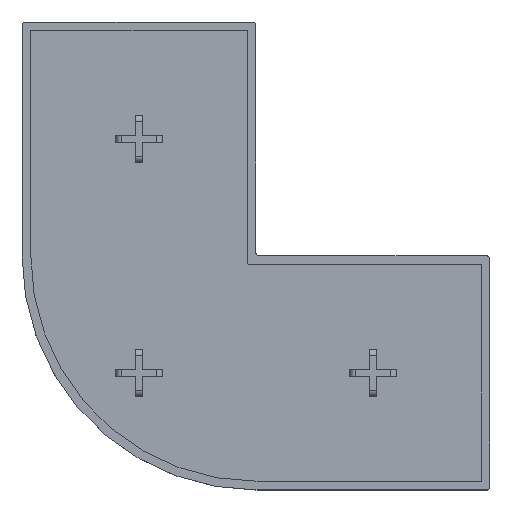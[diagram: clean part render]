
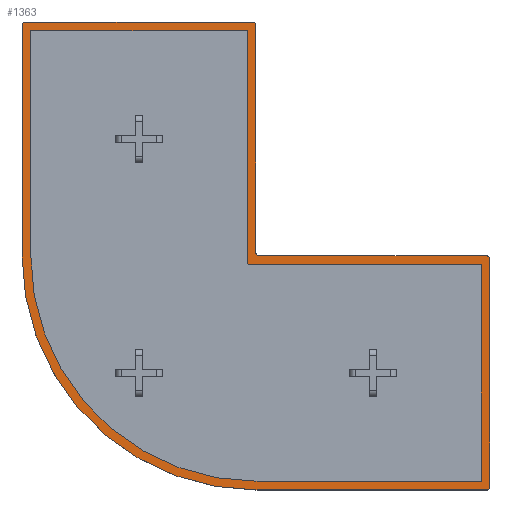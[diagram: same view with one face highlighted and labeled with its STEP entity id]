
A CAD part, top view. The second image highlights one B-rep face of the part: STEP entity #1363.
In plain terms, the highlighted planar face has unit normal (0, 0, 1).
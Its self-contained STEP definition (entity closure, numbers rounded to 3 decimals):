
#15=FACE_BOUND('',#150,.T.);
#20=PLANE('',#1441);
#75=FACE_OUTER_BOUND('',#149,.T.);
#149=EDGE_LOOP('',(#941,#942,#943,#944,#945,#946,#947,#948,#949,#950,#951,
#952));
#150=EDGE_LOOP('',(#953,#954,#955,#956,#957,#958,#959,#960));
#227=LINE('',#1957,#391);
#230=LINE('',#1963,#394);
#231=LINE('',#1967,#395);
#232=LINE('',#1971,#396);
#233=LINE('',#1975,#397);
#234=LINE('',#1979,#398);
#235=LINE('',#1983,#399);
#236=LINE('',#1985,#400);
#237=LINE('',#1987,#401);
#238=LINE('',#1991,#402);
#239=LINE('',#1993,#403);
#240=LINE('',#1995,#404);
#391=VECTOR('',#1563,39.5);
#394=VECTOR('',#1568,39.5);
#395=VECTOR('',#1571,39.);
#396=VECTOR('',#1574,39.);
#397=VECTOR('',#1577,39.);
#398=VECTOR('',#1580,39.);
#399=VECTOR('',#1583,38.5);
#400=VECTOR('',#1584,37.);
#401=VECTOR('',#1585,39.5);
#402=VECTOR('',#1588,39.5);
#403=VECTOR('',#1589,37.);
#404=VECTOR('',#1590,38.5);
#554=CIRCLE('',#1439,40.);
#555=CIRCLE('',#1442,0.5);
#556=CIRCLE('',#1443,0.5);
#557=CIRCLE('',#1444,0.5);
#558=CIRCLE('',#1445,0.5);
#559=CIRCLE('',#1446,0.5);
#560=CIRCLE('',#1447,0.5);
#561=CIRCLE('',#1448,38.5);
#595=VERTEX_POINT('',#1950);
#596=VERTEX_POINT('',#1952);
#597=VERTEX_POINT('',#1956);
#599=VERTEX_POINT('',#1962);
#600=VERTEX_POINT('',#1964);
#601=VERTEX_POINT('',#1966);
#602=VERTEX_POINT('',#1968);
#603=VERTEX_POINT('',#1970);
#604=VERTEX_POINT('',#1972);
#605=VERTEX_POINT('',#1974);
#606=VERTEX_POINT('',#1976);
#607=VERTEX_POINT('',#1978);
#608=VERTEX_POINT('',#1981);
#609=VERTEX_POINT('',#1982);
#610=VERTEX_POINT('',#1984);
#611=VERTEX_POINT('',#1986);
#612=VERTEX_POINT('',#1988);
#613=VERTEX_POINT('',#1990);
#614=VERTEX_POINT('',#1992);
#615=VERTEX_POINT('',#1994);
#731=EDGE_CURVE('',#595,#596,#554,.T.);
#733=EDGE_CURVE('',#597,#596,#227,.T.);
#736=EDGE_CURVE('',#595,#599,#230,.T.);
#737=EDGE_CURVE('',#600,#599,#555,.T.);
#738=EDGE_CURVE('',#600,#601,#231,.T.);
#739=EDGE_CURVE('',#602,#601,#556,.T.);
#740=EDGE_CURVE('',#602,#603,#232,.T.);
#741=EDGE_CURVE('',#604,#603,#557,.T.);
#742=EDGE_CURVE('',#604,#605,#233,.T.);
#743=EDGE_CURVE('',#606,#605,#558,.T.);
#744=EDGE_CURVE('',#606,#607,#234,.T.);
#745=EDGE_CURVE('',#597,#607,#559,.T.);
#746=EDGE_CURVE('',#608,#609,#235,.T.);
#747=EDGE_CURVE('',#609,#610,#236,.T.);
#748=EDGE_CURVE('',#610,#611,#237,.T.);
#749=EDGE_CURVE('',#612,#611,#560,.T.);
#750=EDGE_CURVE('',#612,#613,#238,.T.);
#751=EDGE_CURVE('',#613,#614,#239,.T.);
#752=EDGE_CURVE('',#614,#615,#240,.T.);
#753=EDGE_CURVE('',#608,#615,#561,.T.);
#941=ORIENTED_EDGE('',*,*,#731,.F.);
#942=ORIENTED_EDGE('',*,*,#736,.T.);
#943=ORIENTED_EDGE('',*,*,#737,.F.);
#944=ORIENTED_EDGE('',*,*,#738,.T.);
#945=ORIENTED_EDGE('',*,*,#739,.F.);
#946=ORIENTED_EDGE('',*,*,#740,.T.);
#947=ORIENTED_EDGE('',*,*,#741,.F.);
#948=ORIENTED_EDGE('',*,*,#742,.T.);
#949=ORIENTED_EDGE('',*,*,#743,.F.);
#950=ORIENTED_EDGE('',*,*,#744,.T.);
#951=ORIENTED_EDGE('',*,*,#745,.F.);
#952=ORIENTED_EDGE('',*,*,#733,.T.);
#953=ORIENTED_EDGE('',*,*,#746,.T.);
#954=ORIENTED_EDGE('',*,*,#747,.T.);
#955=ORIENTED_EDGE('',*,*,#748,.T.);
#956=ORIENTED_EDGE('',*,*,#749,.F.);
#957=ORIENTED_EDGE('',*,*,#750,.T.);
#958=ORIENTED_EDGE('',*,*,#751,.T.);
#959=ORIENTED_EDGE('',*,*,#752,.T.);
#960=ORIENTED_EDGE('',*,*,#753,.F.);
#1363=ADVANCED_FACE('',(#75,#15),#20,.T.);
#1439=AXIS2_PLACEMENT_3D('',#1953,#1558,#1559);
#1441=AXIS2_PLACEMENT_3D('',#1961,#1566,#1567);
#1442=AXIS2_PLACEMENT_3D('',#1965,#1569,#1570);
#1443=AXIS2_PLACEMENT_3D('',#1969,#1572,#1573);
#1444=AXIS2_PLACEMENT_3D('',#1973,#1575,#1576);
#1445=AXIS2_PLACEMENT_3D('',#1977,#1578,#1579);
#1446=AXIS2_PLACEMENT_3D('',#1980,#1581,#1582);
#1447=AXIS2_PLACEMENT_3D('',#1989,#1586,#1587);
#1448=AXIS2_PLACEMENT_3D('',#1996,#1591,#1592);
#1558=DIRECTION('center_axis',(0.,0.,-1.));
#1559=DIRECTION('ref_axis',(-0.707,-0.707,0.));
#1563=DIRECTION('',(0.,-1.,0.));
#1566=DIRECTION('center_axis',(0.,0.,1.));
#1567=DIRECTION('ref_axis',(1.,0.,0.));
#1568=DIRECTION('',(1.,0.,0.));
#1569=DIRECTION('center_axis',(0.,0.,-1.));
#1570=DIRECTION('ref_axis',(0.707,-0.707,0.));
#1571=DIRECTION('',(0.,1.,0.));
#1572=DIRECTION('center_axis',(0.,0.,-1.));
#1573=DIRECTION('ref_axis',(0.707,0.707,0.));
#1574=DIRECTION('',(-1.,0.,0.));
#1575=DIRECTION('center_axis',(0.,0.,1.));
#1576=DIRECTION('ref_axis',(-0.707,-0.707,0.));
#1577=DIRECTION('',(0.,1.,0.));
#1578=DIRECTION('center_axis',(0.,0.,-1.));
#1579=DIRECTION('ref_axis',(0.707,0.707,0.));
#1580=DIRECTION('',(-1.,0.,0.));
#1581=DIRECTION('center_axis',(0.,0.,-1.));
#1582=DIRECTION('ref_axis',(-0.707,0.707,0.));
#1583=DIRECTION('',(0.,1.,0.));
#1584=DIRECTION('',(1.,0.,0.));
#1585=DIRECTION('',(0.,-1.,0.));
#1586=DIRECTION('center_axis',(0.,0.,-1.));
#1587=DIRECTION('ref_axis',(-0.707,-0.707,0.));
#1588=DIRECTION('',(1.,0.,0.));
#1589=DIRECTION('',(0.,-1.,0.));
#1590=DIRECTION('',(-1.,0.,0.));
#1591=DIRECTION('center_axis',(0.,0.,1.));
#1592=DIRECTION('ref_axis',(-0.707,-0.707,0.));
#1950=CARTESIAN_POINT('',(40.097,0.116,5.));
#1952=CARTESIAN_POINT('',(0.097,40.116,5.));
#1953=CARTESIAN_POINT('Origin',(40.097,40.116,5.));
#1956=CARTESIAN_POINT('',(0.097,79.616,5.));
#1957=CARTESIAN_POINT('',(0.097,40.116,5.));
#1961=CARTESIAN_POINT('Origin',(37.8,37.819,5.));
#1962=CARTESIAN_POINT('',(79.597,0.116,5.));
#1963=CARTESIAN_POINT('',(40.097,0.116,5.));
#1964=CARTESIAN_POINT('',(80.097,0.616,5.));
#1965=CARTESIAN_POINT('Origin',(79.597,0.616,5.));
#1966=CARTESIAN_POINT('',(80.097,39.616,5.));
#1967=CARTESIAN_POINT('',(80.097,40.116,5.));
#1968=CARTESIAN_POINT('',(79.597,40.116,5.));
#1969=CARTESIAN_POINT('Origin',(79.597,39.616,5.));
#1970=CARTESIAN_POINT('',(40.597,40.116,5.));
#1971=CARTESIAN_POINT('',(40.097,40.116,5.));
#1972=CARTESIAN_POINT('',(40.097,40.616,5.));
#1973=CARTESIAN_POINT('Origin',(40.597,40.616,5.));
#1974=CARTESIAN_POINT('',(40.097,79.616,5.));
#1975=CARTESIAN_POINT('',(40.097,80.116,5.));
#1976=CARTESIAN_POINT('',(39.597,80.116,5.));
#1977=CARTESIAN_POINT('Origin',(39.597,79.616,5.));
#1978=CARTESIAN_POINT('',(0.597,80.116,5.));
#1979=CARTESIAN_POINT('',(0.097,80.116,5.));
#1980=CARTESIAN_POINT('Origin',(0.597,79.616,5.));
#1981=CARTESIAN_POINT('',(1.597,40.116,5.));
#1982=CARTESIAN_POINT('',(1.597,78.616,5.));
#1983=CARTESIAN_POINT('',(1.597,58.217,5.));
#1984=CARTESIAN_POINT('',(38.597,78.616,5.));
#1985=CARTESIAN_POINT('',(38.198,78.616,5.));
#1986=CARTESIAN_POINT('',(38.597,39.116,5.));
#1987=CARTESIAN_POINT('',(38.597,38.217,5.));
#1988=CARTESIAN_POINT('',(39.097,38.616,5.));
#1989=CARTESIAN_POINT('Origin',(39.097,39.116,5.));
#1990=CARTESIAN_POINT('',(78.597,38.616,5.));
#1991=CARTESIAN_POINT('',(58.198,38.616,5.));
#1992=CARTESIAN_POINT('',(78.597,1.616,5.));
#1993=CARTESIAN_POINT('',(78.597,19.717,5.));
#1994=CARTESIAN_POINT('',(40.097,1.616,5.));
#1995=CARTESIAN_POINT('',(33.948,1.616,5.));
#1996=CARTESIAN_POINT('Origin',(40.097,40.116,5.));
